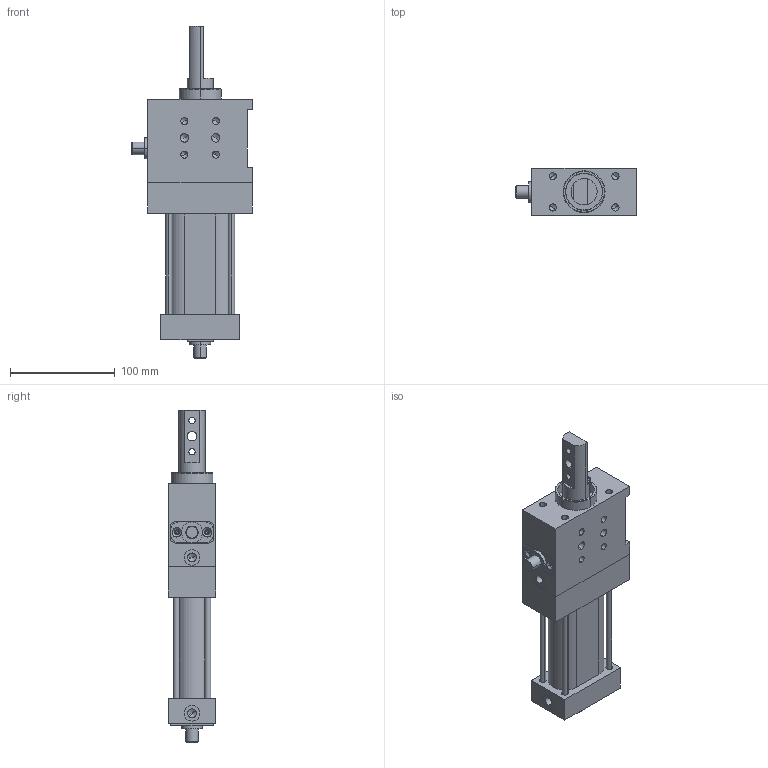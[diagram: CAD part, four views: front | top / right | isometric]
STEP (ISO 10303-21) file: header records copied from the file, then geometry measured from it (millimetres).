
FILE_DESCRIPTION(('CATIA V5 STEP Exchange'),'2;1');
FILE_NAME('G:\Konstruktion\Modelle\Step\MZ_40_A12_T02_30_TUENKERS.stp','2009-03-02T14:05:26+00:00',('none'),('none'),'CATIA Version 5 Release 16 (IN-10)','CATIA V5 STEP AP203','none');
FILE_SCHEMA(('CONFIG_CONTROL_DESIGN'));
Length unit declared in the file: millimetre
Products named in the file (1): MZ_40_A12_T02_30_TUENKERS
Bounding box: 115.5 x 45 x 317.5 mm (x, y, z)
Volume: 601032.7 mm3; surface area: 141982.5 mm2
Topology: 13 solids, 13 shells, 433 faces, 1098 edges, 684 vertices
Faces by surface type: cylinder 192, plane 135, cone 106
Entity records: 11647 total; most frequent: CARTESIAN_POINT 2089, ORIENTED_EDGE 2048, DIRECTION 1600, EDGE_CURVE 1024, AXIS2_PLACEMENT_3D 793, VERTEX_POINT 684, EDGE_LOOP 536, VECTOR 514
